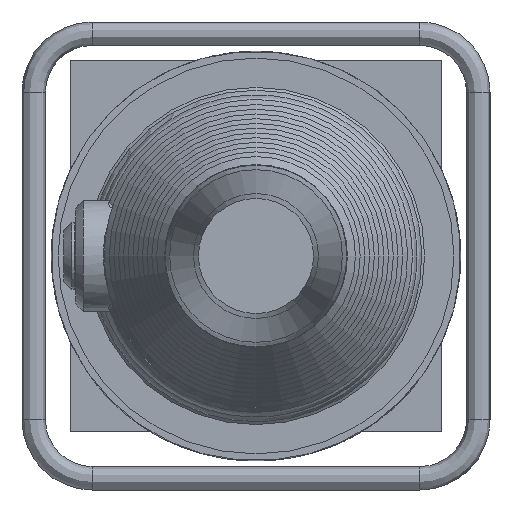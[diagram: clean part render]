
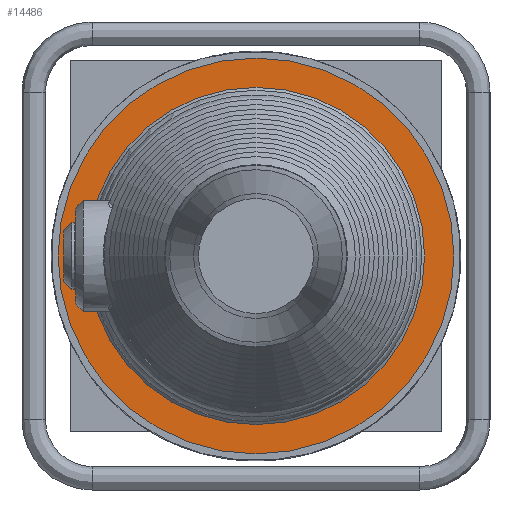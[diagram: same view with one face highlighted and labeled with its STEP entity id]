
A CAD part, left-side view. The second image highlights one B-rep face of the part: STEP entity #14486.
In plain terms, the highlighted planar face has unit normal (-1, 0, 0).
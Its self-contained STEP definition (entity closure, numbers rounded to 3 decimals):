
#1502=PLANE('',#15221);
#3430=FACE_BOUND('',#5162,.T.);
#4225=FACE_OUTER_BOUND('',#5161,.T.);
#5161=EDGE_LOOP('',(#13098));
#5162=EDGE_LOOP('',(#13099));
#5654=CIRCLE('',#15222,101.5);
#5655=CIRCLE('',#15223,86.466);
#7070=VERTEX_POINT('',#34549);
#7071=VERTEX_POINT('',#34551);
#9110=EDGE_CURVE('',#7070,#7070,#5654,.T.);
#9111=EDGE_CURVE('',#7071,#7071,#5655,.T.);
#13098=ORIENTED_EDGE('',*,*,#9110,.F.);
#13099=ORIENTED_EDGE('',*,*,#9111,.T.);
#14486=ADVANCED_FACE('',(#4225,#3430),#1502,.T.);
#15221=AXIS2_PLACEMENT_3D('',#34548,#17503,#17504);
#15222=AXIS2_PLACEMENT_3D('',#34550,#17505,#17506);
#15223=AXIS2_PLACEMENT_3D('',#34552,#17507,#17508);
#17503=DIRECTION('center_axis',(-1.,0.,0.));
#17504=DIRECTION('ref_axis',(0.,1.,0.));
#17505=DIRECTION('center_axis',(1.,0.,0.));
#17506=DIRECTION('ref_axis',(0.,0.,
1.));
#17507=DIRECTION('center_axis',(1.,0.,0.));
#17508=DIRECTION('ref_axis',(0.,0.,
1.));
#34548=CARTESIAN_POINT('Origin',(-192.651,0.,
93.983));
#34549=CARTESIAN_POINT('',(-192.651,0.,101.5));
#34550=CARTESIAN_POINT('Origin',(-192.651,0.,
0.));
#34551=CARTESIAN_POINT('',(-192.651,0.,86.466));
#34552=CARTESIAN_POINT('Origin',(-192.651,0.,
0.));
